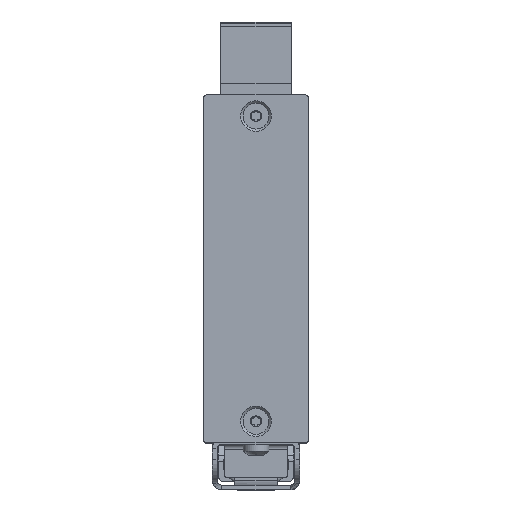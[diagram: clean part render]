
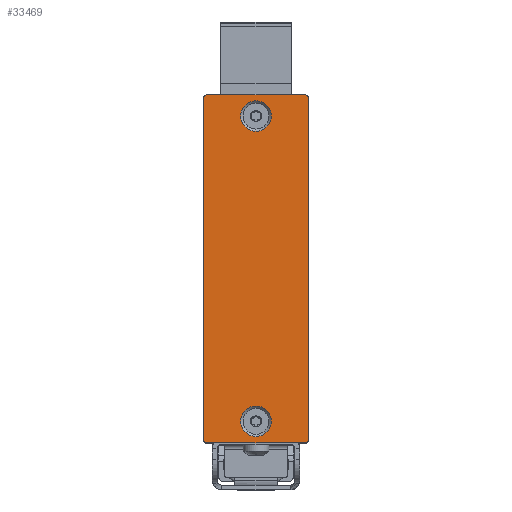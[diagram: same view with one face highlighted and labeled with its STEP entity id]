
A CAD part, top view. The second image highlights one B-rep face of the part: STEP entity #33469.
In plain terms, the highlighted planar face has unit normal (0, 0, 1).
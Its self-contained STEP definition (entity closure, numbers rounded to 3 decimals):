
#33076=CARTESIAN_POINT('',(-10.25,37.05,51.5));
#33077=VERTEX_POINT('',#33076);
#33084=CARTESIAN_POINT('',(10.25,37.05,51.5));
#33085=VERTEX_POINT('',#33084);
#33086=CARTESIAN_POINT('',(10.25,37.05,51.5));
#33087=DIRECTION('',(-1.,0.,0.));
#33088=VECTOR('',#33087,20.5);
#33089=LINE('',#33086,#33088);
#33090=EDGE_CURVE('',#33085,#33077,#33089,.T.);
#33107=CARTESIAN_POINT('',(-11.25,36.05,51.5));
#33108=VERTEX_POINT('',#33107);
#33109=CARTESIAN_POINT('',(-11.25,-36.15,51.5));
#33110=VERTEX_POINT('',#33109);
#33111=CARTESIAN_POINT('',(-11.25,36.05,51.5));
#33112=DIRECTION('',(0.,-1.,0.));
#33113=VECTOR('',#33112,72.2);
#33114=LINE('',#33111,#33113);
#33115=EDGE_CURVE('',#33108,#33110,#33114,.T.);
#33148=CARTESIAN_POINT('',(-10.25,-37.15,51.5));
#33149=VERTEX_POINT('',#33148);
#33150=CARTESIAN_POINT('',(10.25,-37.15,51.5));
#33151=VERTEX_POINT('',#33150);
#33152=CARTESIAN_POINT('',(-10.25,-37.15,51.5));
#33153=DIRECTION('',(1.,0.,-0.));
#33154=VECTOR('',#33153,20.5);
#33155=LINE('',#33152,#33154);
#33156=EDGE_CURVE('',#33149,#33151,#33155,.T.);
#33199=CARTESIAN_POINT('',(11.25,36.05,51.5));
#33200=VERTEX_POINT('',#33199);
#33207=CARTESIAN_POINT('',(11.25,-36.15,51.5));
#33208=VERTEX_POINT('',#33207);
#33209=CARTESIAN_POINT('',(11.25,-36.15,51.5));
#33210=DIRECTION('',(0.,1.,0.));
#33211=VECTOR('',#33210,72.2);
#33212=LINE('',#33209,#33211);
#33213=EDGE_CURVE('',#33208,#33200,#33212,.T.);
#33408=CARTESIAN_POINT('',(0.,-0.05,51.5));
#33409=DIRECTION('',(0.,0.,1.));
#33410=DIRECTION('',(-1.,0.,0.));
#33411=AXIS2_PLACEMENT_3D('',#33408,#33409,#33410);
#33412=PLANE('',#33411);
#33413=CARTESIAN_POINT('',(0.,-35.8,51.5));
#33414=VERTEX_POINT('',#33413);
#33415=CARTESIAN_POINT('',(0.,-32.55,51.5));
#33416=DIRECTION('',(0.,0.,-1.));
#33417=DIRECTION('',(0.,-1.,0.));
#33418=AXIS2_PLACEMENT_3D('',#33415,#33416,#33417);
#33419=CIRCLE('',#33418,3.25);
#33420=EDGE_CURVE('',#33414,#33414,#33419,.T.);
#33421=ORIENTED_EDGE('',*,*,#33420,.T.);
#33422=EDGE_LOOP('',(#33421));
#33423=FACE_BOUND('',#33422,.T.);
#33424=CARTESIAN_POINT('',(0.,29.2,51.5));
#33425=VERTEX_POINT('',#33424);
#33426=CARTESIAN_POINT('',(0.,32.45,51.5));
#33427=DIRECTION('',(0.,0.,-1.));
#33428=DIRECTION('',(0.,-1.,0.));
#33429=AXIS2_PLACEMENT_3D('',#33426,#33427,#33428);
#33430=CIRCLE('',#33429,3.25);
#33431=EDGE_CURVE('',#33425,#33425,#33430,.T.);
#33432=ORIENTED_EDGE('',*,*,#33431,.T.);
#33433=EDGE_LOOP('',(#33432));
#33434=FACE_BOUND('',#33433,.T.);
#33435=ORIENTED_EDGE('',*,*,#33090,.T.);
#33436=CARTESIAN_POINT('',(-10.25,36.05,51.5));
#33437=DIRECTION('',(0.,0.,1.));
#33438=DIRECTION('',(1.,0.,-0.));
#33439=AXIS2_PLACEMENT_3D('',#33436,#33437,#33438);
#33440=CIRCLE('',#33439,1.);
#33441=EDGE_CURVE('',#33077,#33108,#33440,.T.);
#33442=ORIENTED_EDGE('',*,*,#33441,.T.);
#33443=ORIENTED_EDGE('',*,*,#33115,.T.);
#33444=CARTESIAN_POINT('',(-10.25,-36.15,51.5));
#33445=DIRECTION('',(0.,0.,1.));
#33446=DIRECTION('',(1.,0.,-0.));
#33447=AXIS2_PLACEMENT_3D('',#33444,#33445,#33446);
#33448=CIRCLE('',#33447,1.);
#33449=EDGE_CURVE('',#33110,#33149,#33448,.T.);
#33450=ORIENTED_EDGE('',*,*,#33449,.T.);
#33451=ORIENTED_EDGE('',*,*,#33156,.T.);
#33452=CARTESIAN_POINT('',(10.25,-36.15,51.5));
#33453=DIRECTION('',(0.,0.,1.));
#33454=DIRECTION('',(1.,0.,-0.));
#33455=AXIS2_PLACEMENT_3D('',#33452,#33453,#33454);
#33456=CIRCLE('',#33455,1.);
#33457=EDGE_CURVE('',#33151,#33208,#33456,.T.);
#33458=ORIENTED_EDGE('',*,*,#33457,.T.);
#33459=ORIENTED_EDGE('',*,*,#33213,.T.);
#33460=CARTESIAN_POINT('',(10.25,36.05,51.5));
#33461=DIRECTION('',(0.,0.,1.));
#33462=DIRECTION('',(1.,0.,-0.));
#33463=AXIS2_PLACEMENT_3D('',#33460,#33461,#33462);
#33464=CIRCLE('',#33463,1.);
#33465=EDGE_CURVE('',#33200,#33085,#33464,.T.);
#33466=ORIENTED_EDGE('',*,*,#33465,.T.);
#33467=EDGE_LOOP('',(#33435,#33442,#33443,#33450,#33451,#33458,#33459,#33466));
#33468=FACE_BOUND('',#33467,.T.);
#33469=ADVANCED_FACE('',(#33423,#33434,#33468),#33412,.T.);
